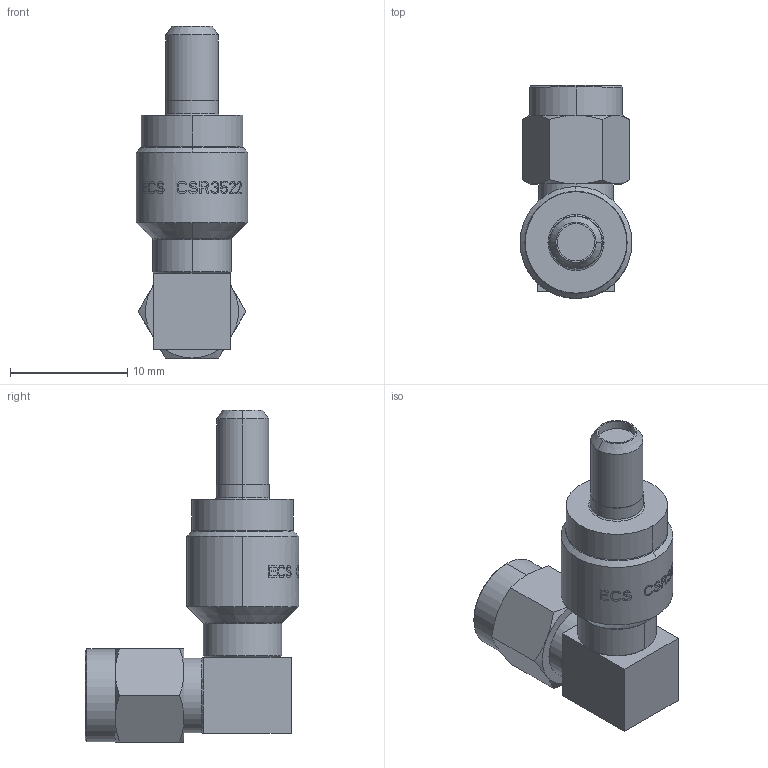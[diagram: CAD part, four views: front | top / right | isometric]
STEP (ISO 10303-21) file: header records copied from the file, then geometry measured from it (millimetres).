
FILE_DESCRIPTION((''),'2;1');
FILE_NAME('CSR3522','2019-11-22T16:50:29',('paul.nurczyk'),('Carlisle Interconnect Technologies'),'CREO PARAMETRIC BY PTC INC, 2017260','CREO PARAMETRIC BY PTC INC, 2017260','');
FILE_SCHEMA(('CONFIG_CONTROL_DESIGN'));
Length unit declared in the file: inch
Products named in the file (1): CSR3522
Bounding box: 9.53 x 18.15 x 28.28 mm (x, y, z)
Volume: 1587.4 mm3; surface area: 1355.5 mm2
Topology: 1 solids, 12 shells, 505 faces, 1758 edges, 1287 vertices
Faces by surface type: bspline 276, plane 133, cylinder 56, cone 34, torus 6
Entity records: 27506 total; most frequent: CARTESIAN_POINT 14666, ORIENTED_EDGE 3133, EDGE_CURVE 1758, DIRECTION 1656, VERTEX_POINT 1287, B_SPLINE_CURVE_WITH_KNOTS 868, VECTOR 584, LINE 584
